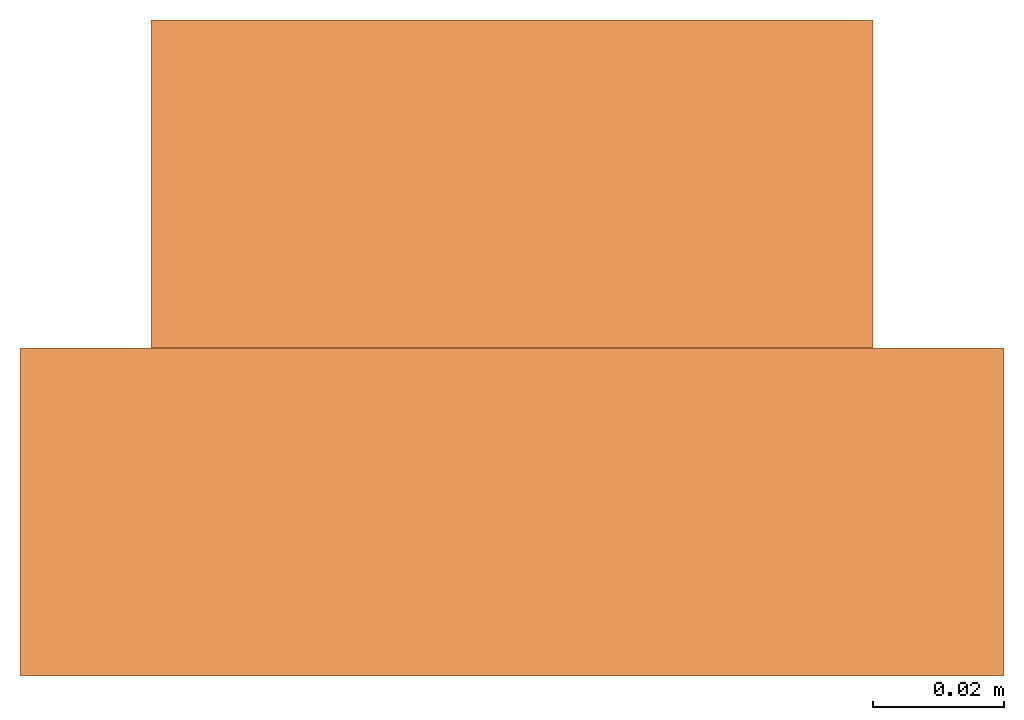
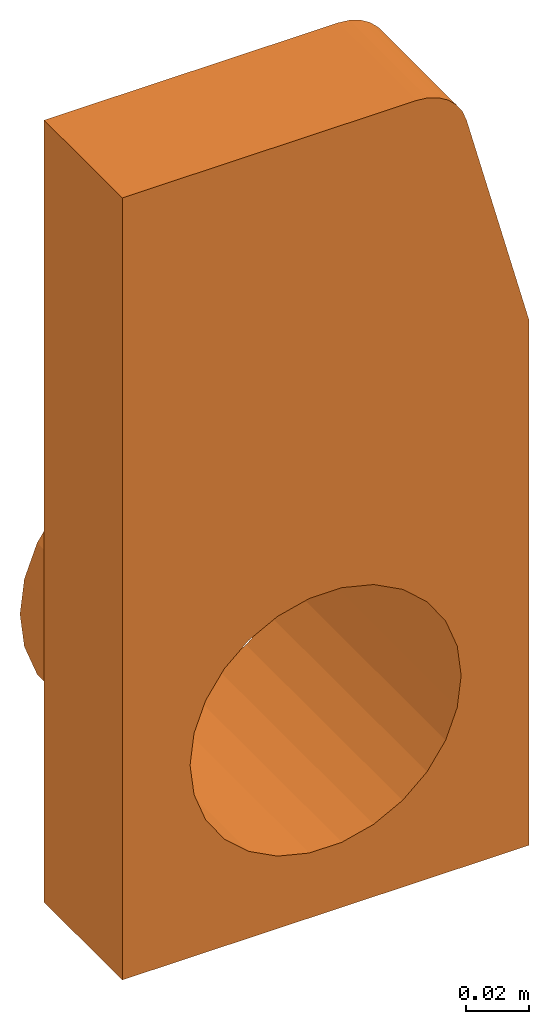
# One storey: 1 proxy.
"""IFC2X3 building model written with IfcOpenShell, lengths in millimetres."""

from ifc_helpers import new_model, entity, si_unit, converted_unit, direction, frame, frame_2d, origin, origin_2d_with_axis, place, context, subcontext, project, spatial, polyline, circle_curve, parameter, trimmed, segment, composite_curve, outline, extrude, source, transform, mapped, material, material_list, element, save


model = new_model("IFC2X3")

# Units and contexts
model_context = context("Model", 3, precision=1e-06, world=origin(), true_north=direction((2.0, 6.12303176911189e-17, 1.0)))
context_of_model = context(None, 3, precision=1e-06, world=origin(), true_north=direction((2.0, 6.12303176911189e-17, 1.0)))
body_context = subcontext(model_context, "Body", "Model", "MODEL_VIEW")
ifc_project = project(units=[si_unit("LENGTHUNIT", "METRE", prefix="MILLI"), si_unit("AREAUNIT", "SQUARE_METRE", prefix="MILLI"), si_unit("VOLUMEUNIT", "CUBIC_METRE", prefix="MILLI"), converted_unit("PLANEANGLEUNIT", "DEGREE", entity("IfcRatioMeasure", 0.0174532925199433), si_unit("PLANEANGLEUNIT", "RADIAN"), dimensions=[0, 0, 0, 0, 0, 0, 0]), si_unit("TIMEUNIT", "SECOND")], contexts=[model_context, context_of_model])

# Site, building, storey
site_placement = place(None, origin())
site = spatial("IfcSite", under=ifc_project, at=site_placement, Name="Default", CompositionType="ELEMENT")
building_placement = place(site_placement, origin())
building = spatial("IfcBuilding", under=site, at=building_placement, CompositionType="ELEMENT")
storey_placement = place(building_placement, frame((0.0, 0.0, -300.0)))
storey = spatial("IfcBuildingStorey", under=building, at=storey_placement, Name="T.O. Fnd. Wall", CompositionType="ELEMENT", Elevation=-300.0)

# Proxy
ifc_material_1 = material(Name="Orange")
ifc_material_2 = material(Name="ACO Polymer Concrete.")
ifc_material_list = material_list([ifc_material_1, ifc_material_2])
shared_shape = source(origin(), body_context, "Body", "SweptSolid", [
    extrude(outline(composite_curve([segment(trimmed(circle_curve(origin_2d_with_axis(), 54.9999999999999), [parameter(0.0)], [parameter(180.0)], True, "PARAMETER"), True, "CONTINUOUS"), segment(trimmed(circle_curve(origin_2d_with_axis(), 54.9999999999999), [parameter(180.0)], [parameter(360.0)], True, "PARAMETER"), True, "CONTINUOUS")], self_intersect=False), holes=[composite_curve([segment(trimmed(circle_curve(origin_2d_with_axis(), 49.9999999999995), [parameter(180.000000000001)], [parameter(4.07110999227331e-13)], True, "PARAMETER"), False, "CONTINUOUS"), segment(trimmed(circle_curve(origin_2d_with_axis(), 49.9999999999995), [parameter(4.57999874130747e-13)], [parameter(179.999999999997)], True, "PARAMETER"), False, "CONTINUOUS")], self_intersect=False)]), frame((0.0, 50.0, -105.0), z_axis=(0.0, 1.0, 0.0), x_axis=(-1.0, 0.0, 0.0)), (0.0, 0.0, 1.0), 50.0),
    extrude(outline(composite_curve([segment(polyline([(-60.7326122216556, -184.319593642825), (89.2673877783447, -184.319593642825)]), True, "CONTINUOUS"), segment(polyline([(89.2673877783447, -184.319593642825), (89.2673877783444, 120.680406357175)]), True, "CONTINUOUS"), segment(polyline([(89.2673877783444, 120.680406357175), (-19.358480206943, 120.680406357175)]), True, "CONTINUOUS"), segment(trimmed(circle_curve(frame_2d((-19.3584802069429, 101.680406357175), x_axis=(-1.0, 0.0)), 19.0), [parameter(270.0)], [parameter(345.000000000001)], True, "PARAMETER"), True, "CONTINUOUS"), segment(polyline([(-37.7110709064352, 106.597968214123), (-60.7326122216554, 20.6804063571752)]), True, "CONTINUOUS"), segment(polyline([(-60.7326122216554, 20.6804063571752), (-60.7326122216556, -184.319593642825)]), True, "CONTINUOUS")], self_intersect=False), holes=[composite_curve([segment(trimmed(circle_curve(frame_2d((14.2673877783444, -109.319593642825), x_axis=(-1.0, 0.0)), 49.9999999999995), [parameter(180.0)], [parameter(360.0)], True, "PARAMETER"), False, "CONTINUOUS"), segment(trimmed(circle_curve(frame_2d((14.2673877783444, -109.319593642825), x_axis=(-1.0, 0.0)), 49.9999999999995), [parameter(0.0)], [parameter(180.0)], True, "PARAMETER"), False, "CONTINUOUS")], self_intersect=False)]), frame((14.2673877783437, 0.0, 4.31959364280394), z_axis=(0.0, 1.0, 0.0), x_axis=(-1.0, 0.0, 0.0)), (0.0, 0.0, 1.0), 50.0),
])
proxy_placement = place(storey_placement, frame((-4264.21056397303, -6896.5502196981, 300.0)))
element("IfcBuildingElementProxy", 1, at=proxy_placement, inside=storey, material=ifc_material_list, Name="Civil-Drainage-Channel-ACO-KerbDrain-HB305 - PART 1:7964 - LH inlet/outlet end cap:7964 - LH inlet/outlet end cap", ObjectType="7964 - LH inlet/outlet end cap", CompositionType="ELEMENT", context=body_context, shape_type="MappedRepresentation", body=[
    mapped(shared_shape, transform((0.0, 0.0, 0.0), scale=1.0)),
])

save(model, "model.ifc")
